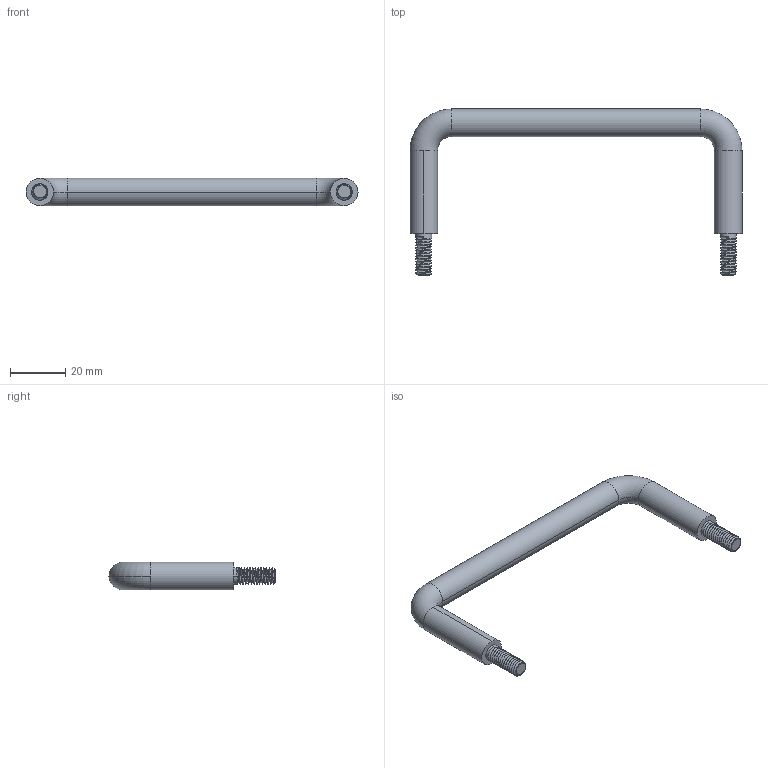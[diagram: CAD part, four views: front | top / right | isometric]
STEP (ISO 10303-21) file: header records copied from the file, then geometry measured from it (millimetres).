
FILE_DESCRIPTION (( 'STEP AP203' ), '1' );
FILE_NAME ('SK4-002-2.STEP', '2018-11-01T09:01:18', ( 'admin' ), ( 'Microsoft' ), 'SwSTEP 2.0', 'SolidWorks 2015', '' );
FILE_SCHEMA (( 'CONFIG_CONTROL_DESIGN' ));
Length unit declared in the file: millimetre
Products named in the file (1): SK4-002-2
Bounding box: 120 x 60 x 10 mm (x, y, z)
Volume: 14889.3 mm3; surface area: 6736.1 mm2
Topology: 1 solids, 1 shells, 78 faces, 216 edges, 142 vertices
Faces by surface type: cylinder 60, plane 6, torus 4, cone 4, bspline 4
Entity records: 5501 total; most frequent: CARTESIAN_POINT 3773, ORIENTED_EDGE 432, DIRECTION 272, EDGE_CURVE 216, VERTEX_POINT 142, AXIS2_PLACEMENT_3D 103, EDGE_LOOP 80, ADVANCED_FACE 78
